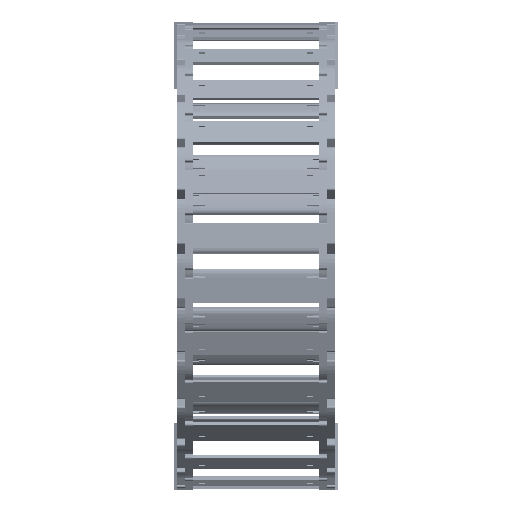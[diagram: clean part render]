
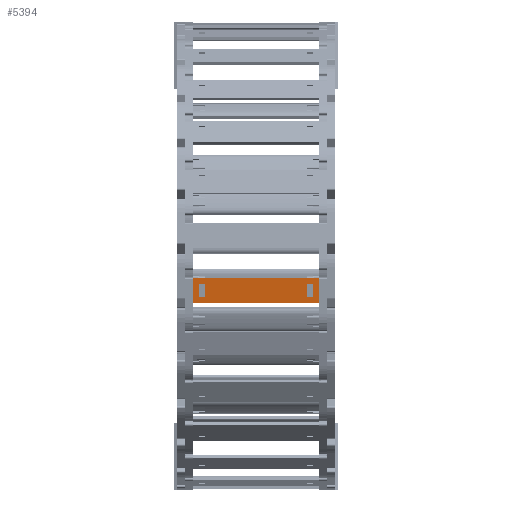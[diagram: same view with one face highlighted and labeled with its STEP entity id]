
A CAD part, left-side view. The second image highlights one B-rep face of the part: STEP entity #5394.
In plain terms, the highlighted planar face has unit normal (-0.989, 0, -0.146) as drawn and (0, 1, 0) by its records, which use the part's own axes.
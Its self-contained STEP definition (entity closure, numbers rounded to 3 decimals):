
#4814=DIRECTION('',(0.,0.,1.));
#4815=VECTOR('',#4814,15.8);
#4816=CARTESIAN_POINT('',(65.74,1.5,-7.9));
#4817=LINE('',#4816,#4815);
#4818=DIRECTION('',(-1.,0.,0.));
#4819=VECTOR('',#4818,80.5);
#4820=CARTESIAN_POINT('',(65.74,1.5,7.9));
#4821=LINE('',#4820,#4819);
#4822=DIRECTION('',(0.,0.,-1.));
#4823=VECTOR('',#4822,15.8);
#4824=CARTESIAN_POINT('',(-14.76,1.5,7.9));
#4825=LINE('',#4824,#4823);
#4826=DIRECTION('',(1.,0.,0.));
#4827=VECTOR('',#4826,3.648);
#4828=CARTESIAN_POINT('',(58.122,1.5,4.075));
#4829=LINE('',#4828,#4827);
#4830=DIRECTION('',(0.,0.,-1.));
#4831=VECTOR('',#4830,8.15);
#4832=CARTESIAN_POINT('',(61.77,1.5,4.075));
#4833=LINE('',#4832,#4831);
#4834=DIRECTION('',(-1.,0.,0.));
#4835=VECTOR('',#4834,3.648);
#4836=CARTESIAN_POINT('',(61.77,1.5,-4.075));
#4837=LINE('',#4836,#4835);
#4838=DIRECTION('',(0.,0.,-1.));
#4839=VECTOR('',#4838,8.15);
#4840=CARTESIAN_POINT('',(-7.142,1.5,4.075));
#4841=LINE('',#4840,#4839);
#4842=DIRECTION('',(-1.,0.,0.));
#4843=VECTOR('',#4842,3.648);
#4844=CARTESIAN_POINT('',(-7.142,1.5,-4.075));
#4845=LINE('',#4844,#4843);
#4846=DIRECTION('',(0.,0.,1.));
#4847=VECTOR('',#4846,8.15);
#4848=CARTESIAN_POINT('',(-10.79,1.5,-4.075));
#4849=LINE('',#4848,#4847);
#4850=DIRECTION('',(1.,0.,0.));
#4851=VECTOR('',#4850,3.648);
#4852=CARTESIAN_POINT('',(-10.79,1.5,4.075));
#4853=LINE('',#4852,#4851);
#4858=DIRECTION('',(-1.,0.,0.));
#4859=VECTOR('',#4858,80.5);
#4860=CARTESIAN_POINT('',(65.74,1.5,-7.9));
#4861=LINE('',#4860,#4859);
#4979=DIRECTION('',(0.,0.,-1.));
#4980=VECTOR('',#4979,8.15);
#4981=CARTESIAN_POINT('',(58.122,1.5,4.075));
#4982=LINE('',#4981,#4980);
#5164=CARTESIAN_POINT('',(61.77,1.5,4.075));
#5165=VERTEX_POINT('',#5164);
#5166=CARTESIAN_POINT('',(58.122,1.5,4.075));
#5167=VERTEX_POINT('',#5166);
#5208=CARTESIAN_POINT('',(58.122,1.5,-4.075));
#5209=VERTEX_POINT('',#5208);
#5210=CARTESIAN_POINT('',(61.77,1.5,-4.075));
#5211=VERTEX_POINT('',#5210);
#5212=CARTESIAN_POINT('',(65.74,1.5,7.9));
#5214=VERTEX_POINT('',#5212);
#5216=CARTESIAN_POINT('',(65.74,1.5,-7.9));
#5217=VERTEX_POINT('',#5216);
#5240=CARTESIAN_POINT('',(-7.142,1.5,4.075));
#5241=CARTESIAN_POINT('',(-7.142,1.5,-4.075));
#5242=VERTEX_POINT('',#5240);
#5243=VERTEX_POINT('',#5241);
#5244=CARTESIAN_POINT('',(-10.79,1.5,-4.075));
#5245=VERTEX_POINT('',#5244);
#5246=CARTESIAN_POINT('',(-10.79,1.5,4.075));
#5247=VERTEX_POINT('',#5246);
#5248=CARTESIAN_POINT('',(-14.76,1.5,7.9));
#5249=VERTEX_POINT('',#5248);
#5252=CARTESIAN_POINT('',(-14.76,1.5,-7.9));
#5253=VERTEX_POINT('',#5252);
#5363=CARTESIAN_POINT('',(97.48,1.5,10.061));
#5364=DIRECTION('',(0.,-1.,0.));
#5365=DIRECTION('',(0.,0.,-1.));
#5366=AXIS2_PLACEMENT_3D('',#5363,#5364,#5365);
#5367=PLANE('',#5366);
#5368=ORIENTED_EDGE('',*,*,#5302,.T.);
#5369=ORIENTED_EDGE('',*,*,#5328,.T.);
#5370=ORIENTED_EDGE('',*,*,#5341,.T.);
#5372=ORIENTED_EDGE('',*,*,#5371,.F.);
#5373=EDGE_LOOP('',(#5368,#5369,#5370,#5372));
#5374=FACE_OUTER_BOUND('',#5373,.F.);
#5376=ORIENTED_EDGE('',*,*,#5375,.F.);
#5377=ORIENTED_EDGE('',*,*,#5265,.T.);
#5379=ORIENTED_EDGE('',*,*,#5378,.T.);
#5381=ORIENTED_EDGE('',*,*,#5380,.T.);
#5382=EDGE_LOOP('',(#5376,#5377,#5379,#5381));
#5383=FACE_BOUND('',#5382,.F.);
#5385=ORIENTED_EDGE('',*,*,#5384,.T.);
#5387=ORIENTED_EDGE('',*,*,#5386,.T.);
#5389=ORIENTED_EDGE('',*,*,#5388,.T.);
#5391=ORIENTED_EDGE('',*,*,#5390,.T.);
#5392=EDGE_LOOP('',(#5385,#5387,#5389,#5391));
#5393=FACE_BOUND('',#5392,.F.);
#5394=ADVANCED_FACE('',(#5374,#5383,#5393),#5367,.F.);
#5265=EDGE_CURVE('',#5167,#5165,#4829,.T.);
#5302=EDGE_CURVE('',#5217,#5214,#4817,.T.);
#5328=EDGE_CURVE('',#5214,#5249,#4821,.T.);
#5341=EDGE_CURVE('',#5249,#5253,#4825,.T.);
#5371=EDGE_CURVE('',#5217,#5253,#4861,.T.);
#5375=EDGE_CURVE('',#5167,#5209,#4982,.T.);
#5378=EDGE_CURVE('',#5165,#5211,#4833,.T.);
#5380=EDGE_CURVE('',#5211,#5209,#4837,.T.);
#5384=EDGE_CURVE('',#5242,#5243,#4841,.T.);
#5386=EDGE_CURVE('',#5243,#5245,#4845,.T.);
#5388=EDGE_CURVE('',#5245,#5247,#4849,.T.);
#5390=EDGE_CURVE('',#5247,#5242,#4853,.T.);
